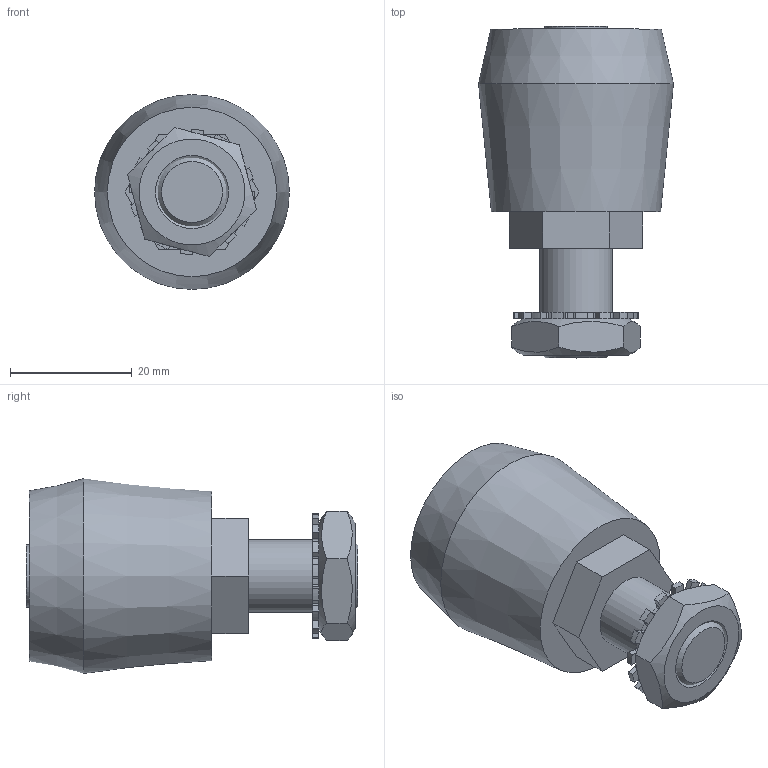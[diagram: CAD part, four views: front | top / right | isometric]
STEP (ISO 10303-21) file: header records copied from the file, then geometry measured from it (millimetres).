
FILE_DESCRIPTION(/* description */ ('Kunststoff Rolle Ø32'),/* implementation_level */ '2;1');
FILE_NAME(/* name */ 'Q:\sge-ma\Produktmanagement-STB\STB\Workspace\stp\010336231.stp',/* time_stamp */ '2016-07-20T09:00:41+02:00',/* author */ ('avschreier'),/* organization */ (''),/* preprocessor_version */ 'ST-DEVELOPER v16.1',/* originating_system */ 'Autodesk Inventor 2016',/* authorisation */ '');
FILE_SCHEMA (('AUTOMOTIVE_DESIGN { 1 0 10303 214 3 1 1 }'));
Length unit declared in the file: millimetre
Products named in the file (6): 337000174; 337000171; DIN_EN_ISO_7090-10,5_en; DIN_6798-A_13_en; DIN_EN_ISO_4035-M12_en; 010336231
Assembly tree (5 placements, depth 2):
  010336231
    337000174
    337000171
    DIN_EN_ISO_7090-10,5_en
    DIN_6798-A_13_en
    DIN_EN_ISO_4035-M12_en
Bounding box: 32 x 54.5 x 32 mm (x, y, z)
Volume: 25891.4 mm3; surface area: 10195.3 mm2
Topology: 5 solids, 5 shells, 138 faces, 367 edges, 243 vertices
Faces by surface type: cylinder 73, plane 58, cone 7
Full cylindrical faces by diameter (mm): 10.106 x1, 10.3 x1, 10.5 x1, 12 x1, 13 x1, 14 x1, 14.2 x1, 20 x1, 21 x1
Entity records: 4402 total; most frequent: DIRECTION 790, CARTESIAN_POINT 765, ORIENTED_EDGE 700, EDGE_CURVE 350, AXIS2_PLACEMENT_3D 303, VERTEX_POINT 242, LINE 184, VECTOR 184
